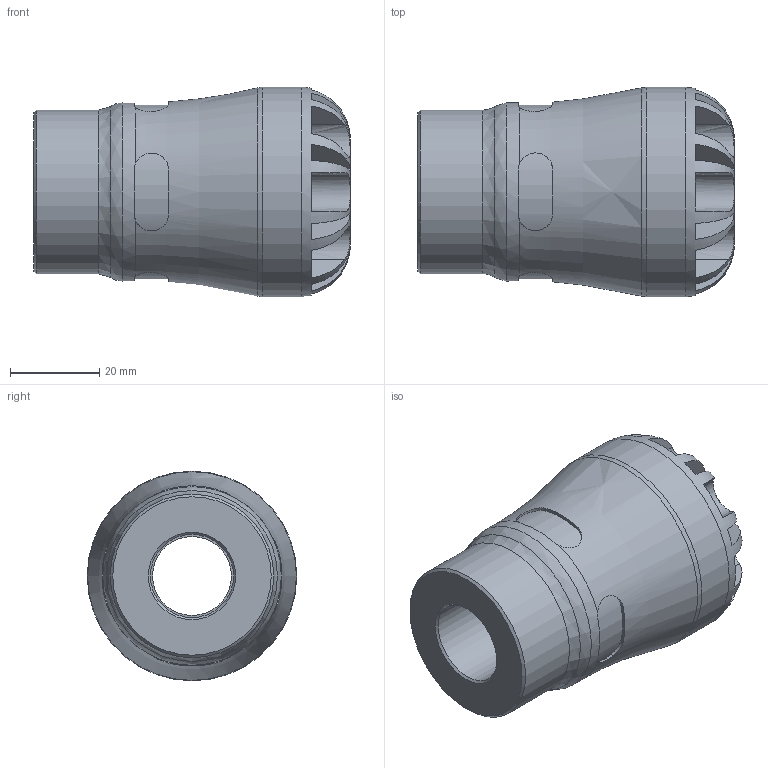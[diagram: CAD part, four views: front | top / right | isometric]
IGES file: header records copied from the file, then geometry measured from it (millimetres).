
Global section: file name: 1003Z0007007.ipt; native system: Autodesk Inventor 2019; preprocessor: unknown; author: KIM; date: 20210902.120242; units: inch
Bounding box: 70.87 x 46.99 x 46.99 mm (x, y, z)
Volume: 65818.7 mm3; surface area: 17849 mm2
Topology: 1 solids, 1 shells, 104 faces, 279 edges, 180 vertices
Faces by surface type: plane 61, revolution 27, cylinder 15, cone 1
Full cylindrical faces by diameter (mm): 36.652 x1, 39.941 x1, 46.99 x1
